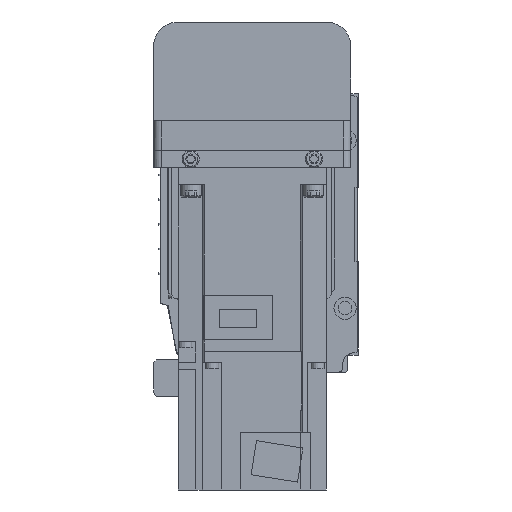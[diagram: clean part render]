
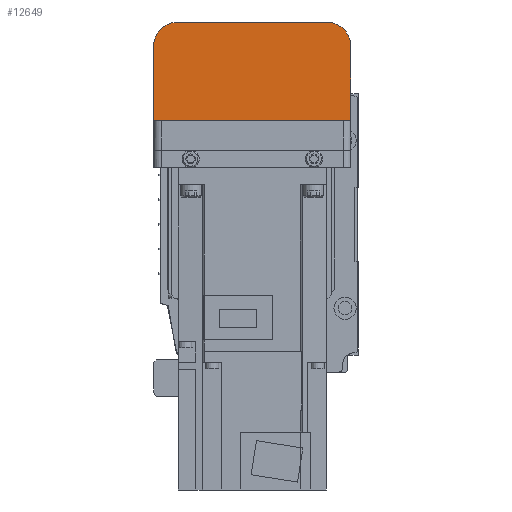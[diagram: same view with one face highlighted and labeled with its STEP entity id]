
A CAD part, left-side view. The second image highlights one B-rep face of the part: STEP entity #12649.
In plain terms, the highlighted planar face has unit normal (-1, 0, 0).
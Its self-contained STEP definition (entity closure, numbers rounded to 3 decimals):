
#491=CIRCLE('',#13621,10.);
#492=CIRCLE('',#13622,10.);
#2172=ORIENTED_EDGE('',*,*,#5111,.F.);
#2173=ORIENTED_EDGE('',*,*,#5112,.F.);
#2174=ORIENTED_EDGE('',*,*,#5113,.F.);
#2175=ORIENTED_EDGE('',*,*,#5114,.F.);
#2176=ORIENTED_EDGE('',*,*,#5115,.F.);
#2177=ORIENTED_EDGE('',*,*,#5116,.F.);
#5111=EDGE_CURVE('',#6687,#6683,#7975,.T.);
#5112=EDGE_CURVE('',#6699,#6687,#7976,.T.);
#5113=EDGE_CURVE('',#6700,#6699,#491,.T.);
#5114=EDGE_CURVE('',#6701,#6700,#7977,.T.);
#5115=EDGE_CURVE('',#6702,#6701,#492,.T.);
#5116=EDGE_CURVE('',#6683,#6702,#7978,.T.);
#6683=VERTEX_POINT('',#19777);
#6687=VERTEX_POINT('',#19787);
#6699=VERTEX_POINT('',#19816);
#6700=VERTEX_POINT('',#19818);
#6701=VERTEX_POINT('',#19820);
#6702=VERTEX_POINT('',#19822);
#7975=LINE('',#19814,#9203);
#7976=LINE('',#19815,#9204);
#7977=LINE('',#19819,#9205);
#7978=LINE('',#19823,#9206);
#9203=VECTOR('',#15898,1000.);
#9204=VECTOR('',#15899,1000.);
#9205=VECTOR('',#15902,1000.);
#9206=VECTOR('',#15905,1000.);
#10258=EDGE_LOOP('',(#2172,#2173,#2174,#2175,#2176,#2177));
#11248=FACE_BOUND('',#10258,.T.);
#12081=PLANE('',#13620);
#12649=ADVANCED_FACE('',(#11248),#12081,.F.);
#13620=AXIS2_PLACEMENT_3D('',#19813,#15896,#15897);
#13621=AXIS2_PLACEMENT_3D('',#19817,#15900,#15901);
#13622=AXIS2_PLACEMENT_3D('',#19821,#15903,#15904);
#15896=DIRECTION('',(1.,0.,0.));
#15897=DIRECTION('',(0.,0.,-1.));
#15898=DIRECTION('',(0.,-1.,0.));
#15899=DIRECTION('',(0.,0.,1.));
#15900=DIRECTION('',(1.,0.,0.));
#15901=DIRECTION('',(0.,0.,-1.));
#15902=DIRECTION('',(0.,1.,0.));
#15903=DIRECTION('',(1.,0.,0.));
#15904=DIRECTION('',(0.,0.,-1.));
#15905=DIRECTION('',(0.,0.,-1.));
#19777=CARTESIAN_POINT('',(-192.,-40.,-12.1));
#19787=CARTESIAN_POINT('',(-192.,40.,-12.1));
#19813=CARTESIAN_POINT('',(-192.,37.,7.));
#19814=CARTESIAN_POINT('',(-192.,50.,-12.1));
#19815=CARTESIAN_POINT('',(-192.,40.,-42.));
#19816=CARTESIAN_POINT('',(-192.,40.,-42.));
#19817=CARTESIAN_POINT('',(-192.,30.,-42.));
#19818=CARTESIAN_POINT('',(-192.,30.,-52.));
#19819=CARTESIAN_POINT('',(-192.,-30.,-52.));
#19820=CARTESIAN_POINT('',(-192.,-30.,-52.));
#19821=CARTESIAN_POINT('',(-192.,-30.,-42.));
#19822=CARTESIAN_POINT('',(-192.,-40.,-42.));
#19823=CARTESIAN_POINT('',(-192.,-40.,-12.1));
